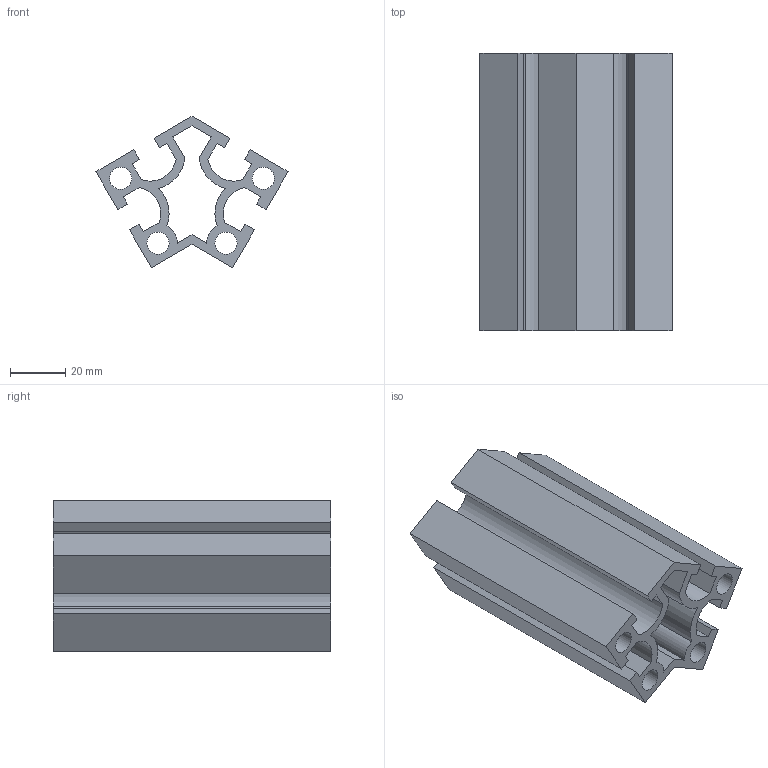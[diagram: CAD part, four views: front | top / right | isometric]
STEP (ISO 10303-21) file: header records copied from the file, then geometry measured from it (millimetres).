
FILE_DESCRIPTION(/* description */ ('Unknown'),/* implementation_level */ '2;1');
FILE_NAME(/* name */ 'NMW40120',/* time_stamp */ '2026-08-31T13:18:39+08:00',/* author */ ('Unknown'),/* organization */ ('Unknown'),/* preprocessor_version */ 'ST-DEVELOPER v16.7',/* originating_system */ 'DEX',/* authorisation */ $);
FILE_SCHEMA (('AUTOMOTIVE_DESIGN {1 0 10303 214 3 1 1}'));
Length unit declared in the file: millimetre
Products named in the file (1): NMW40120
Bounding box: 69.28 x 100 x 54.64 mm (x, y, z)
Volume: 89482.2 mm3; surface area: 57542.9 mm2
Topology: 1 solids, 1 shells, 56 faces, 162 edges, 108 vertices
Faces by surface type: plane 42, cylinder 14
Full cylindrical faces by diameter (mm): 8 x4
Entity records: 1864 total; most frequent: CARTESIAN_POINT 323, ORIENTED_EDGE 316, DIRECTION 300, EDGE_CURVE 158, LINE 130, VECTOR 130, VERTEX_POINT 108, AXIS2_PLACEMENT_3D 85
